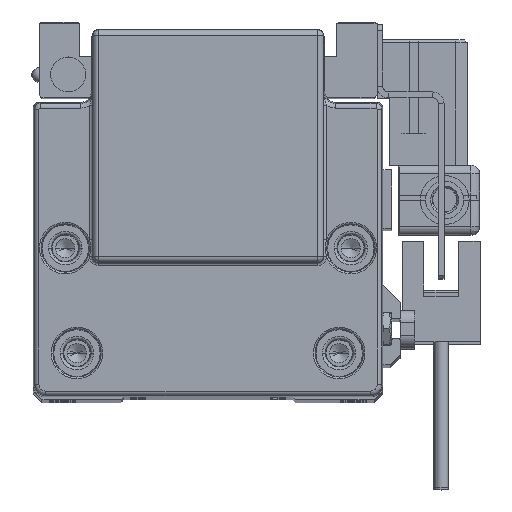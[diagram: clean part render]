
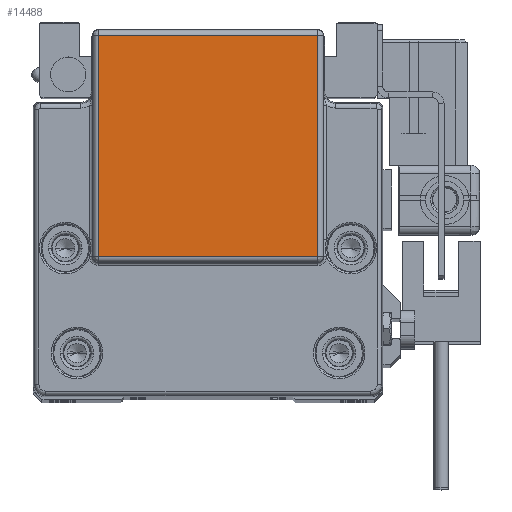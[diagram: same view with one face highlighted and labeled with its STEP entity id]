
A CAD part, top view. The second image highlights one B-rep face of the part: STEP entity #14488.
In plain terms, the highlighted planar face has unit normal (0, 0, 1) as drawn and (0, 0, -1) by its records, which use the part's own axes.
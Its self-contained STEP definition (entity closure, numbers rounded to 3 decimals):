
#3186 = CARTESIAN_POINT ( 'NONE',  ( 18.808, 62.447, -143. ) ) ;
#3271 = VERTEX_POINT ( 'NONE', #3186 ) ;
#5862 = EDGE_CURVE ( 'NONE', #42681, #3271, #52437, .T. ) ;
#6034 = DIRECTION ( 'NONE',  ( 0., -1., 0. ) ) ;
#8778 = DIRECTION ( 'NONE',  ( 0., 1., 0. ) ) ;
#9289 = DIRECTION ( 'NONE',  ( 0., 1., 0. ) ) ;
#9968 = CARTESIAN_POINT ( 'NONE',  ( 19., 24.518, -143. ) ) ;
#10316 = VERTEX_POINT ( 'NONE', #11358 ) ;
#11313 = EDGE_CURVE ( 'NONE', #10316, #42681, #19922, .T. ) ;
#11319 = LINE ( 'NONE', #20346, #18779 ) ;
#11358 = CARTESIAN_POINT ( 'NONE',  ( -18.808, 24.518, -143. ) ) ;
#12536 = CARTESIAN_POINT ( 'NONE',  ( -18.808, 62.447, -143. ) ) ;
#14049 = CARTESIAN_POINT ( 'NONE',  ( 19., 24.5, -143. ) ) ;
#14488 = ADVANCED_FACE ( 'NONE', ( #23393 ), #33623, .T. ) ;
#17490 = ORIENTED_EDGE ( 'NONE', *, *, #40842, .T. ) ;
#18249 = VECTOR ( 'NONE', #9289, 1000. ) ;
#18779 = VECTOR ( 'NONE', #6034, 1000. ) ;
#19922 = LINE ( 'NONE', #9968, #46325 ) ;
#20117 = DIRECTION ( 'NONE',  ( 1., 0., 0. ) ) ;
#20346 = CARTESIAN_POINT ( 'NONE',  ( -18.808, 31., -143. ) ) ;
#23393 = FACE_OUTER_BOUND ( 'NONE', #37318, .T. ) ;
#24788 = CARTESIAN_POINT ( 'NONE',  ( 19., 62.447, -143. ) ) ;
#25081 = VECTOR ( 'NONE', #20117, 1000. ) ;
#30190 = ORIENTED_EDGE ( 'NONE', *, *, #46940, .F. ) ;
#32397 = ORIENTED_EDGE ( 'NONE', *, *, #5862, .F. ) ;
#33623 = PLANE ( 'NONE',  #54569 ) ;
#33682 = VERTEX_POINT ( 'NONE', #12536 ) ;
#37287 = CARTESIAN_POINT ( 'NONE',  ( 18.808, 24.5, -143. ) ) ;
#37318 = EDGE_LOOP ( 'NONE', ( #32397, #61006, #30190, #17490 ) ) ;
#40842 = EDGE_CURVE ( 'NONE', #33682, #3271, #52717, .T. ) ;
#42681 = VERTEX_POINT ( 'NONE', #54376 ) ;
#46325 = VECTOR ( 'NONE', #58134, 1000. ) ;
#46940 = EDGE_CURVE ( 'NONE', #33682, #10316, #11319, .T. ) ;
#52437 = LINE ( 'NONE', #37287, #18249 ) ;
#52539 = DIRECTION ( 'NONE',  ( 0., 0., -1. ) ) ;
#52717 = LINE ( 'NONE', #24788, #25081 ) ;
#54376 = CARTESIAN_POINT ( 'NONE',  ( 18.808, 24.518, -143. ) ) ;
#54569 = AXIS2_PLACEMENT_3D ( 'NONE', #14049, #52539, #8778 ) ;
#58134 = DIRECTION ( 'NONE',  ( 1., 0., 0. ) ) ;
#61006 = ORIENTED_EDGE ( 'NONE', *, *, #11313, .F. ) ;
